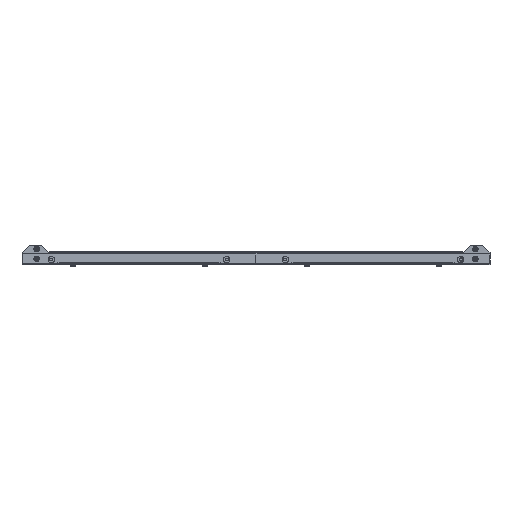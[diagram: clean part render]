
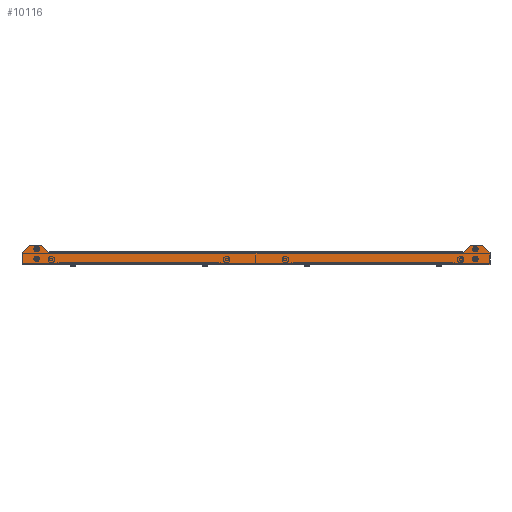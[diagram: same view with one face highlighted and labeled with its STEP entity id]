
A CAD part, front view. The second image highlights one B-rep face of the part: STEP entity #10116.
In plain terms, the highlighted planar face has unit normal (0, -1, 0).
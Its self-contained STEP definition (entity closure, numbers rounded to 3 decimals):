
#10080 = EDGE_CURVE('',#10081,#10083,#10085,.T.);
#10081 = VERTEX_POINT('',#10082);
#10082 = CARTESIAN_POINT('',(-600.,-2.5,3.5));
#10083 = VERTEX_POINT('',#10084);
#10084 = CARTESIAN_POINT('',(-600.,-2.5,31.5));
#10085 = LINE('',#10086,#10087);
#10086 = CARTESIAN_POINT('',(-600.,-2.5,0.));
#10087 = VECTOR('',#10088,1.);
#10088 = DIRECTION('',(0.,0.,1.));
#10116 = ADVANCED_FACE('',(#10117,#10128,#10139,#10150,#10161),#10282,
  .F.);
#10117 = FACE_BOUND('',#10118,.T.);
#10118 = EDGE_LOOP('',(#10119));
#10119 = ORIENTED_EDGE('',*,*,#10120,.F.);
#10120 = EDGE_CURVE('',#10121,#10121,#10123,.T.);
#10121 = VERTEX_POINT('',#10122);
#10122 = CARTESIAN_POINT('',(562.5,-2.5,44.75));
#10123 = CIRCLE('',#10124,4.75);
#10124 = AXIS2_PLACEMENT_3D('',#10125,#10126,#10127);
#10125 = CARTESIAN_POINT('',(562.5,-2.5,40.));
#10126 = DIRECTION('',(0.,-1.,0.));
#10127 = DIRECTION('',(0.,0.,1.));
#10128 = FACE_BOUND('',#10129,.T.);
#10129 = EDGE_LOOP('',(#10130));
#10130 = ORIENTED_EDGE('',*,*,#10131,.F.);
#10131 = EDGE_CURVE('',#10132,#10132,#10134,.T.);
#10132 = VERTEX_POINT('',#10133);
#10133 = CARTESIAN_POINT('',(562.5,-2.5,19.75));
#10134 = CIRCLE('',#10135,4.75);
#10135 = AXIS2_PLACEMENT_3D('',#10136,#10137,#10138);
#10136 = CARTESIAN_POINT('',(562.5,-2.5,15.));
#10137 = DIRECTION('',(0.,-1.,0.));
#10138 = DIRECTION('',(0.,0.,1.));
#10139 = FACE_BOUND('',#10140,.T.);
#10140 = EDGE_LOOP('',(#10141));
#10141 = ORIENTED_EDGE('',*,*,#10142,.F.);
#10142 = EDGE_CURVE('',#10143,#10143,#10145,.T.);
#10143 = VERTEX_POINT('',#10144);
#10144 = CARTESIAN_POINT('',(-562.5,-2.5,19.75));
#10145 = CIRCLE('',#10146,4.75);
#10146 = AXIS2_PLACEMENT_3D('',#10147,#10148,#10149);
#10147 = CARTESIAN_POINT('',(-562.5,-2.5,15.));
#10148 = DIRECTION('',(0.,-1.,0.));
#10149 = DIRECTION('',(0.,0.,1.));
#10150 = FACE_BOUND('',#10151,.T.);
#10151 = EDGE_LOOP('',(#10152));
#10152 = ORIENTED_EDGE('',*,*,#10153,.F.);
#10153 = EDGE_CURVE('',#10154,#10154,#10156,.T.);
#10154 = VERTEX_POINT('',#10155);
#10155 = CARTESIAN_POINT('',(-562.5,-2.5,44.75));
#10156 = CIRCLE('',#10157,4.75);
#10157 = AXIS2_PLACEMENT_3D('',#10158,#10159,#10160);
#10158 = CARTESIAN_POINT('',(-562.5,-2.5,40.));
#10159 = DIRECTION('',(0.,-1.,0.));
#10160 = DIRECTION('',(0.,0.,1.));
#10161 = FACE_BOUND('',#10162,.T.);
#10162 = EDGE_LOOP('',(#10163,#10173,#10181,#10189,#10197,#10205,#10213,
    #10221,#10229,#10237,#10245,#10253,#10259,#10260,#10268,#10276));
#10163 = ORIENTED_EDGE('',*,*,#10164,.F.);
#10164 = EDGE_CURVE('',#10165,#10167,#10169,.T.);
#10165 = VERTEX_POINT('',#10166);
#10166 = CARTESIAN_POINT('',(600.,-2.5,31.5));
#10167 = VERTEX_POINT('',#10168);
#10168 = CARTESIAN_POINT('',(600.,-2.5,3.5));
#10169 = LINE('',#10170,#10171);
#10170 = CARTESIAN_POINT('',(600.,-2.5,0.));
#10171 = VECTOR('',#10172,1.);
#10172 = DIRECTION('',(-0.,-0.,-1.));
#10173 = ORIENTED_EDGE('',*,*,#10174,.T.);
#10174 = EDGE_CURVE('',#10165,#10175,#10177,.T.);
#10175 = VERTEX_POINT('',#10176);
#10176 = CARTESIAN_POINT('',(581.5,-2.5,50.));
#10177 = LINE('',#10178,#10179);
#10178 = CARTESIAN_POINT('',(581.5,-2.5,50.));
#10179 = VECTOR('',#10180,1.);
#10180 = DIRECTION('',(-0.707,-0.,0.707));
#10181 = ORIENTED_EDGE('',*,*,#10182,.F.);
#10182 = EDGE_CURVE('',#10183,#10175,#10185,.T.);
#10183 = VERTEX_POINT('',#10184);
#10184 = CARTESIAN_POINT('',(550.,-2.5,50.));
#10185 = LINE('',#10186,#10187);
#10186 = CARTESIAN_POINT('',(600.,-2.5,50.));
#10187 = VECTOR('',#10188,1.);
#10188 = DIRECTION('',(1.,-0.,0.));
#10189 = ORIENTED_EDGE('',*,*,#10190,.T.);
#10190 = EDGE_CURVE('',#10183,#10191,#10193,.T.);
#10191 = VERTEX_POINT('',#10192);
#10192 = CARTESIAN_POINT('',(531.5,-2.5,31.5));
#10193 = LINE('',#10194,#10195);
#10194 = CARTESIAN_POINT('',(250.,-2.5,-250.));
#10195 = VECTOR('',#10196,1.);
#10196 = DIRECTION('',(-0.707,0.,-0.707));
#10197 = ORIENTED_EDGE('',*,*,#10198,.F.);
#10198 = EDGE_CURVE('',#10199,#10191,#10201,.T.);
#10199 = VERTEX_POINT('',#10200);
#10200 = CARTESIAN_POINT('',(530.,-2.5,31.5));
#10201 = LINE('',#10202,#10203);
#10202 = CARTESIAN_POINT('',(-550.,-2.5,31.5));
#10203 = VECTOR('',#10204,1.);
#10204 = DIRECTION('',(1.,0.,0.));
#10205 = ORIENTED_EDGE('',*,*,#10206,.T.);
#10206 = EDGE_CURVE('',#10199,#10207,#10209,.T.);
#10207 = VERTEX_POINT('',#10208);
#10208 = CARTESIAN_POINT('',(530.,-2.5,35.));
#10209 = LINE('',#10210,#10211);
#10210 = CARTESIAN_POINT('',(530.,-2.5,31.5));
#10211 = VECTOR('',#10212,1.);
#10212 = DIRECTION('',(-0.,-0.,1.));
#10213 = ORIENTED_EDGE('',*,*,#10214,.F.);
#10214 = EDGE_CURVE('',#10215,#10207,#10217,.T.);
#10215 = VERTEX_POINT('',#10216);
#10216 = CARTESIAN_POINT('',(-530.,-2.5,35.));
#10217 = LINE('',#10218,#10219);
#10218 = CARTESIAN_POINT('',(0.,-2.5,35.));
#10219 = VECTOR('',#10220,1.);
#10220 = DIRECTION('',(1.,-0.,-0.));
#10221 = ORIENTED_EDGE('',*,*,#10222,.F.);
#10222 = EDGE_CURVE('',#10223,#10215,#10225,.T.);
#10223 = VERTEX_POINT('',#10224);
#10224 = CARTESIAN_POINT('',(-530.,-2.5,31.5));
#10225 = LINE('',#10226,#10227);
#10226 = CARTESIAN_POINT('',(-530.,-2.5,0.));
#10227 = VECTOR('',#10228,1.);
#10228 = DIRECTION('',(0.,0.,1.));
#10229 = ORIENTED_EDGE('',*,*,#10230,.F.);
#10230 = EDGE_CURVE('',#10231,#10223,#10233,.T.);
#10231 = VERTEX_POINT('',#10232);
#10232 = CARTESIAN_POINT('',(-531.5,-2.5,31.5));
#10233 = LINE('',#10234,#10235);
#10234 = CARTESIAN_POINT('',(-550.,-2.5,31.5));
#10235 = VECTOR('',#10236,1.);
#10236 = DIRECTION('',(1.,0.,0.));
#10237 = ORIENTED_EDGE('',*,*,#10238,.T.);
#10238 = EDGE_CURVE('',#10231,#10239,#10241,.T.);
#10239 = VERTEX_POINT('',#10240);
#10240 = CARTESIAN_POINT('',(-550.,-2.5,50.));
#10241 = LINE('',#10242,#10243);
#10242 = CARTESIAN_POINT('',(-250.,-2.5,-250.));
#10243 = VECTOR('',#10244,1.);
#10244 = DIRECTION('',(-0.707,-0.,0.707));
#10245 = ORIENTED_EDGE('',*,*,#10246,.F.);
#10246 = EDGE_CURVE('',#10247,#10239,#10249,.T.);
#10247 = VERTEX_POINT('',#10248);
#10248 = CARTESIAN_POINT('',(-581.5,-2.5,50.));
#10249 = LINE('',#10250,#10251);
#10250 = CARTESIAN_POINT('',(-600.,-2.5,50.));
#10251 = VECTOR('',#10252,1.);
#10252 = DIRECTION('',(1.,0.,0.));
#10253 = ORIENTED_EDGE('',*,*,#10254,.T.);
#10254 = EDGE_CURVE('',#10247,#10083,#10255,.T.);
#10255 = LINE('',#10256,#10257);
#10256 = CARTESIAN_POINT('',(-600.,-2.5,31.5));
#10257 = VECTOR('',#10258,1.);
#10258 = DIRECTION('',(-0.707,-0.,-0.707));
#10259 = ORIENTED_EDGE('',*,*,#10080,.F.);
#10260 = ORIENTED_EDGE('',*,*,#10261,.T.);
#10261 = EDGE_CURVE('',#10081,#10262,#10264,.T.);
#10262 = VERTEX_POINT('',#10263);
#10263 = CARTESIAN_POINT('',(-600.,-2.5,0.));
#10264 = LINE('',#10265,#10266);
#10265 = CARTESIAN_POINT('',(-600.,-2.5,3.5));
#10266 = VECTOR('',#10267,1.);
#10267 = DIRECTION('',(-0.,-0.,-1.));
#10268 = ORIENTED_EDGE('',*,*,#10269,.F.);
#10269 = EDGE_CURVE('',#10270,#10262,#10272,.T.);
#10270 = VERTEX_POINT('',#10271);
#10271 = CARTESIAN_POINT('',(600.,-2.5,0.));
#10272 = LINE('',#10273,#10274);
#10273 = CARTESIAN_POINT('',(0.,-2.5,0.));
#10274 = VECTOR('',#10275,1.);
#10275 = DIRECTION('',(-1.,-0.,0.));
#10276 = ORIENTED_EDGE('',*,*,#10277,.F.);
#10277 = EDGE_CURVE('',#10167,#10270,#10278,.T.);
#10278 = LINE('',#10279,#10280);
#10279 = CARTESIAN_POINT('',(600.,-2.5,0.));
#10280 = VECTOR('',#10281,1.);
#10281 = DIRECTION('',(0.,0.,-1.));
#10282 = PLANE('',#10283);
#10283 = AXIS2_PLACEMENT_3D('',#10284,#10285,#10286);
#10284 = CARTESIAN_POINT('',(0.,-2.5,0.));
#10285 = DIRECTION('',(0.,1.,0.));
#10286 = DIRECTION('',(0.,-0.,1.));
